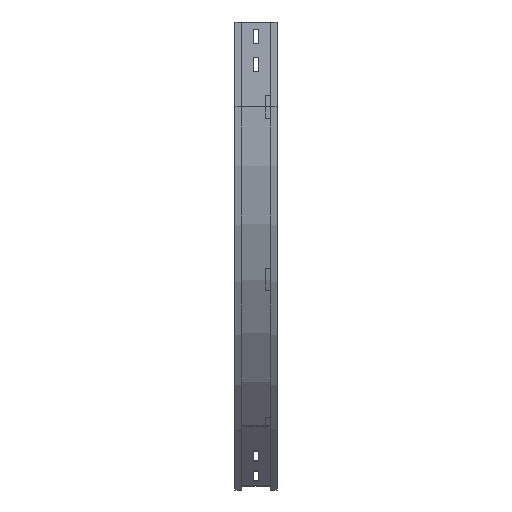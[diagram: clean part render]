
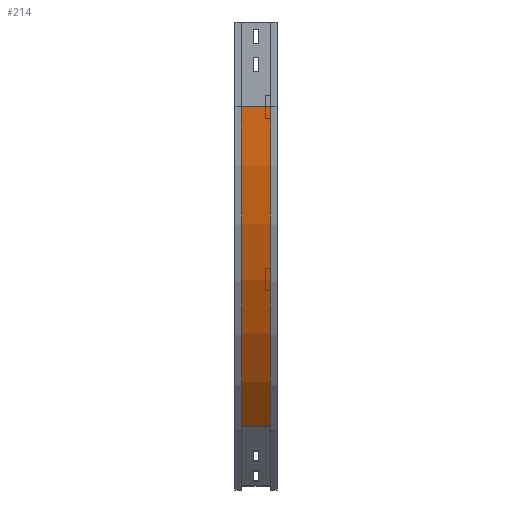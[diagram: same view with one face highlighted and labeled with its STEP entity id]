
A CAD part, left-side view. The second image highlights one B-rep face of the part: STEP entity #214.
In plain terms, the highlighted cylindrical face has radius 800 mm (diameter 1600 mm), a partial arc.
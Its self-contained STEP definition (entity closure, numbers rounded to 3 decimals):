
#33 = ORIENTED_EDGE ( 'NONE', *, *, #3273, .F. ) ;
#86 = DIRECTION ( 'NONE',  ( 0., -1., 0. ) ) ;
#109 = FACE_OUTER_BOUND ( 'NONE', #1315, .T. ) ;
#153 = VERTEX_POINT ( 'NONE', #1175 ) ;
#193 = EDGE_CURVE ( 'NONE', #683, #2967, #2958, .T. ) ;
#214 = ADVANCED_FACE ( 'NONE', ( #109 ), #2704, .T. ) ;
#287 = CARTESIAN_POINT ( 'NONE',  ( 9., 12., -150. ) ) ;
#352 = CARTESIAN_POINT ( 'NONE',  ( 809., 0., -150. ) ) ;
#610 = CARTESIAN_POINT ( 'NONE',  ( 243.315, 12., -715.685 ) ) ;
#623 = DIRECTION ( 'NONE',  ( -1., 0., 0. ) ) ;
#683 = VERTEX_POINT ( 'NONE', #1575 ) ;
#716 = CARTESIAN_POINT ( 'NONE',  ( 243.315, 12., -715.685 ) ) ;
#878 = CARTESIAN_POINT ( 'NONE',  ( 809., 63., -150. ) ) ;
#902 = DIRECTION ( 'NONE',  ( 0., 0., -1. ) ) ;
#951 = CIRCLE ( 'NONE', #1507, 800. ) ;
#1006 = EDGE_CURVE ( 'NONE', #153, #683, #951, .T. ) ;
#1169 = LINE ( 'NONE', #3225, #3093 ) ;
#1175 = CARTESIAN_POINT ( 'NONE',  ( 9., 63., -150. ) ) ;
#1315 = EDGE_LOOP ( 'NONE', ( #1348, #33, #2376, #2001 ) ) ;
#1348 = ORIENTED_EDGE ( 'NONE', *, *, #2364, .F. ) ;
#1507 = AXIS2_PLACEMENT_3D ( 'NONE', #878, #2467, #2396 ) ;
#1575 = CARTESIAN_POINT ( 'NONE',  ( 243.315, 63., -715.685 ) ) ;
#1627 = DIRECTION ( 'NONE',  ( 0., -1., 0. ) ) ;
#1732 = CARTESIAN_POINT ( 'NONE',  ( 809., 12., -150. ) ) ;
#1866 = VERTEX_POINT ( 'NONE', #287 ) ;
#1963 = AXIS2_PLACEMENT_3D ( 'NONE', #1732, #2455, #623 ) ;
#2001 = ORIENTED_EDGE ( 'NONE', *, *, #193, .T. ) ;
#2302 = AXIS2_PLACEMENT_3D ( 'NONE', #352, #86, #902 ) ;
#2364 = EDGE_CURVE ( 'NONE', #1866, #2967, #3026, .T. ) ;
#2376 = ORIENTED_EDGE ( 'NONE', *, *, #1006, .T. ) ;
#2394 = DIRECTION ( 'NONE',  ( 0., -1., 0. ) ) ;
#2396 = DIRECTION ( 'NONE',  ( -1., 0., 0. ) ) ;
#2455 = DIRECTION ( 'NONE',  ( 0., -1., 0. ) ) ;
#2464 = VECTOR ( 'NONE', #1627, 1000. ) ;
#2467 = DIRECTION ( 'NONE',  ( 0., -1., 0. ) ) ;
#2704 = CYLINDRICAL_SURFACE ( 'NONE', #2302, 800. ) ;
#2958 = LINE ( 'NONE', #610, #2464 ) ;
#2967 = VERTEX_POINT ( 'NONE', #716 ) ;
#3026 = CIRCLE ( 'NONE', #1963, 800. ) ;
#3093 = VECTOR ( 'NONE', #2394, 1000. ) ;
#3225 = CARTESIAN_POINT ( 'NONE',  ( 9., 12., -150. ) ) ;
#3273 = EDGE_CURVE ( 'NONE', #153, #1866, #1169, .T. ) ;
